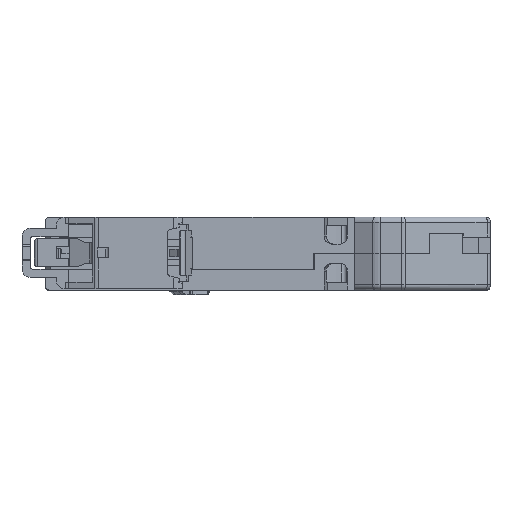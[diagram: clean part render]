
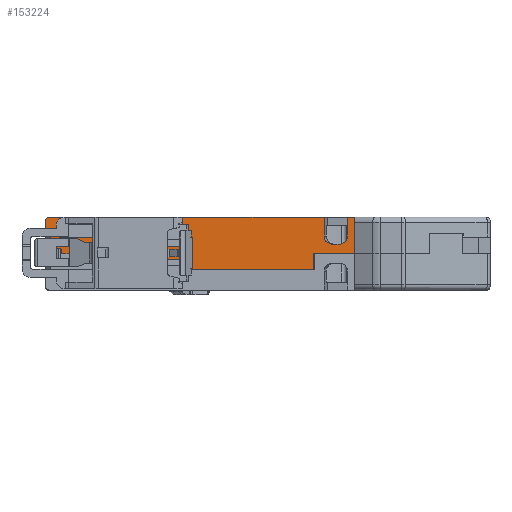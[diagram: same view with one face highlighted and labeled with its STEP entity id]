
A CAD part, top view. The second image highlights one B-rep face of the part: STEP entity #153224.
In plain terms, the highlighted planar face has unit normal (0, 0, 1).
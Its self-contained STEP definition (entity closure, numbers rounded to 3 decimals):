
#135839=DIRECTION('',(-1.,0.,0.));
#135840=VECTOR('',#135839,9.);
#135841=CARTESIAN_POINT('',(12.,75.841,-5.5));
#135842=LINE('',#135841,#135840);
#136026=DIRECTION('',(1.,0.,0.));
#136027=VECTOR('',#136026,0.8);
#136028=CARTESIAN_POINT('',(0.,79.791,-5.5));
#136029=LINE('',#136028,#136027);
#136030=DIRECTION('',(0.,-1.,0.));
#136031=VECTOR('',#136030,2.1);
#136032=CARTESIAN_POINT('',(0.,81.891,-5.5));
#136033=LINE('',#136032,#136031);
#136034=CARTESIAN_POINT('',(0.7,81.891,-5.5));
#136035=DIRECTION('',(0.,0.,1.));
#136036=DIRECTION('',(0.,1.,0.));
#136037=AXIS2_PLACEMENT_3D('',#136034,#136035,#136036);
#136039=DIRECTION('',(-1.,0.,0.));
#136040=VECTOR('',#136039,50.7);
#136041=CARTESIAN_POINT('',(51.4,82.591,-5.5));
#136042=LINE('',#136041,#136040);
#136043=DIRECTION('',(0.,1.,0.));
#136044=VECTOR('',#136043,3.5);
#136045=CARTESIAN_POINT('',(51.4,79.091,-5.5));
#136046=LINE('',#136045,#136044);
#136047=DIRECTION('',(-1.,0.,0.));
#136048=VECTOR('',#136047,1.233);
#136049=CARTESIAN_POINT('',(54.166,77.591,-5.5));
#136050=LINE('',#136049,#136048);
#136051=DIRECTION('',(-1.,0.,0.));
#136052=VECTOR('',#136051,2.8);
#136053=CARTESIAN_POINT('',(58.5,82.591,-5.5));
#136054=LINE('',#136053,#136052);
#136055=DIRECTION('',(0.,1.,0.));
#136056=VECTOR('',#136055,3.);
#136057=CARTESIAN_POINT('',(49.5,72.841,-5.5));
#136058=LINE('',#136057,#136056);
#136059=DIRECTION('',(1.,0.,0.));
#136060=VECTOR('',#136059,35.);
#136061=CARTESIAN_POINT('',(14.5,72.841,-5.5));
#136062=LINE('',#136061,#136060);
#136063=DIRECTION('',(-1.,0.,0.));
#136064=VECTOR('',#136063,5.5);
#136065=CARTESIAN_POINT('',(20.,78.841,-5.5));
#136066=LINE('',#136065,#136064);
#136067=DIRECTION('',(0.707,0.707,0.));
#136068=VECTOR('',#136067,0.424);
#136069=CARTESIAN_POINT('',(2.5,79.741,-5.5));
#136070=LINE('',#136069,#136068);
#136071=DIRECTION('',(0.,1.,0.));
#136072=VECTOR('',#136071,0.9);
#136073=CARTESIAN_POINT('',(2.5,78.841,-5.5));
#136074=LINE('',#136073,#136072);
#136075=DIRECTION('',(-1.,0.,0.));
#136076=VECTOR('',#136075,9.5);
#136077=CARTESIAN_POINT('',(12.,78.841,-5.5));
#136078=LINE('',#136077,#136076);
#136079=DIRECTION('',(0.206,-0.979,0.));
#136080=VECTOR('',#136079,0.971);
#136081=CARTESIAN_POINT('',(2.8,76.791,-5.5));
#136082=LINE('',#136081,#136080);
#136087=DIRECTION('',(0.,1.,0.));
#136088=VECTOR('',#136087,3.);
#136089=CARTESIAN_POINT('',(0.8,76.791,-5.5));
#136090=LINE('',#136089,#136088);
#136588=DIRECTION('',(0.,1.,0.));
#136589=VECTOR('',#136588,3.5);
#136590=CARTESIAN_POINT('',(55.7,79.091,-5.5));
#136591=LINE('',#136590,#136589);
#136640=DIRECTION('',(0.,-1.,0.));
#136641=VECTOR('',#136640,6.75);
#136642=CARTESIAN_POINT('',(58.5,82.591,-5.5));
#136643=LINE('',#136642,#136641);
#137154=CARTESIAN_POINT('',(54.166,77.591,-5.5));
#137155=CARTESIAN_POINT('',(54.419,77.591,-5.5));
#137156=CARTESIAN_POINT('',(54.818,77.698,-5.5));
#137157=CARTESIAN_POINT('',(55.27,78.005,-5.5));
#137158=CARTESIAN_POINT('',(55.587,78.446,-5.5));
#137159=CARTESIAN_POINT('',(55.7,78.839,-5.5));
#137160=CARTESIAN_POINT('',(55.7,79.091,-5.5));
#137266=DIRECTION('',(0.,1.,0.));
#137267=VECTOR('',#137266,1.2);
#137268=CARTESIAN_POINT('',(20.,78.841,-5.5));
#137269=LINE('',#137268,#137267);
#137286=DIRECTION('',(-1.,0.,0.));
#137287=VECTOR('',#137286,17.2);
#137288=CARTESIAN_POINT('',(20.,80.041,-5.5));
#137289=LINE('',#137288,#137287);
#144017=DIRECTION('',(0.,-1.,0.));
#144018=VECTOR('',#144017,3.);
#144019=CARTESIAN_POINT('',(12.,78.841,-5.5));
#144020=LINE('',#144019,#144018);
#144061=DIRECTION('',(0.,1.,0.));
#144062=VECTOR('',#144061,6.);
#144063=CARTESIAN_POINT('',(14.5,72.841,-5.5));
#144064=LINE('',#144063,#144062);
#144184=DIRECTION('',(-1.,0.,0.));
#144185=VECTOR('',#144184,9.);
#144186=CARTESIAN_POINT('',(58.5,75.841,-5.5));
#144187=LINE('',#144186,#144185);
#144258=CARTESIAN_POINT('',(51.4,79.091,-5.5));
#144259=CARTESIAN_POINT('',(51.4,78.839,-5.5));
#144260=CARTESIAN_POINT('',(51.513,78.446,-5.5));
#144261=CARTESIAN_POINT('',(51.83,78.005,-5.5));
#144262=CARTESIAN_POINT('',(52.282,77.698,-5.5));
#144263=CARTESIAN_POINT('',(52.681,77.591,-5.5));
#144264=CARTESIAN_POINT('',(52.934,77.591,-5.5));
#144282=DIRECTION('',(-1.,0.,0.));
#144283=VECTOR('',#144282,2.);
#144284=CARTESIAN_POINT('',(2.8,76.791,-5.5));
#144285=LINE('',#144284,#144283);
#149081=CARTESIAN_POINT('',(0.,79.791,-5.5));
#149082=CARTESIAN_POINT('',(0.8,79.791,-5.5));
#149083=VERTEX_POINT('',#149081);
#149084=VERTEX_POINT('',#149082);
#149085=CARTESIAN_POINT('',(0.8,76.791,-5.5));
#149086=VERTEX_POINT('',#149085);
#149087=CARTESIAN_POINT('',(2.8,76.791,-5.5));
#149088=VERTEX_POINT('',#149087);
#149089=CARTESIAN_POINT('',(3.,75.841,-5.5));
#149090=VERTEX_POINT('',#149089);
#149091=CARTESIAN_POINT('',(12.,75.841,-5.5));
#149092=VERTEX_POINT('',#149091);
#149093=CARTESIAN_POINT('',(12.,78.841,-5.5));
#149094=VERTEX_POINT('',#149093);
#149095=CARTESIAN_POINT('',(2.5,78.841,-5.5));
#149096=VERTEX_POINT('',#149095);
#149097=CARTESIAN_POINT('',(2.5,79.741,-5.5));
#149098=VERTEX_POINT('',#149097);
#149099=CARTESIAN_POINT('',(2.8,80.041,-5.5));
#149100=VERTEX_POINT('',#149099);
#149101=CARTESIAN_POINT('',(20.,80.041,-5.5));
#149102=VERTEX_POINT('',#149101);
#149103=CARTESIAN_POINT('',(20.,78.841,-5.5));
#149104=VERTEX_POINT('',#149103);
#149105=CARTESIAN_POINT('',(14.5,78.841,-5.5));
#149106=VERTEX_POINT('',#149105);
#149107=CARTESIAN_POINT('',(14.5,72.841,-5.5));
#149108=VERTEX_POINT('',#149107);
#149109=CARTESIAN_POINT('',(49.5,72.841,-5.5));
#149110=VERTEX_POINT('',#149109);
#149111=CARTESIAN_POINT('',(49.5,75.841,-5.5));
#149112=VERTEX_POINT('',#149111);
#149113=CARTESIAN_POINT('',(58.5,75.841,-5.5));
#149114=VERTEX_POINT('',#149113);
#149115=CARTESIAN_POINT('',(58.5,82.591,-5.5));
#149116=VERTEX_POINT('',#149115);
#149117=CARTESIAN_POINT('',(55.7,82.591,-5.5));
#149118=VERTEX_POINT('',#149117);
#149119=CARTESIAN_POINT('',(55.7,79.091,-5.5));
#149120=VERTEX_POINT('',#149119);
#149121=VERTEX_POINT('',#137154);
#149122=CARTESIAN_POINT('',(52.934,77.591,-5.5));
#149123=VERTEX_POINT('',#149122);
#149124=VERTEX_POINT('',#144258);
#149125=CARTESIAN_POINT('',(51.4,82.591,-5.5));
#149126=VERTEX_POINT('',#149125);
#149127=CARTESIAN_POINT('',(0.7,82.591,-5.5));
#149128=VERTEX_POINT('',#149127);
#149129=CARTESIAN_POINT('',(0.,81.891,-5.5));
#149130=VERTEX_POINT('',#149129);
#153166=CARTESIAN_POINT('',(0.,75.841,-5.5));
#153167=DIRECTION('',(0.,0.,1.));
#153168=DIRECTION('',(1.,0.,0.));
#153169=AXIS2_PLACEMENT_3D('',#153166,#153167,#153168);
#153170=PLANE('',#153169);
#153172=ORIENTED_EDGE('',*,*,#153171,.F.);
#153174=ORIENTED_EDGE('',*,*,#153173,.F.);
#153176=ORIENTED_EDGE('',*,*,#153175,.F.);
#153178=ORIENTED_EDGE('',*,*,#153177,.F.);
#153180=ORIENTED_EDGE('',*,*,#153179,.F.);
#153182=ORIENTED_EDGE('',*,*,#153181,.T.);
#153184=ORIENTED_EDGE('',*,*,#153183,.F.);
#153186=ORIENTED_EDGE('',*,*,#153185,.T.);
#153188=ORIENTED_EDGE('',*,*,#153187,.T.);
#153190=ORIENTED_EDGE('',*,*,#153189,.F.);
#153192=ORIENTED_EDGE('',*,*,#153191,.T.);
#153194=ORIENTED_EDGE('',*,*,#153193,.T.);
#153196=ORIENTED_EDGE('',*,*,#153195,.F.);
#153198=ORIENTED_EDGE('',*,*,#153197,.F.);
#153200=ORIENTED_EDGE('',*,*,#153199,.T.);
#153202=ORIENTED_EDGE('',*,*,#153201,.F.);
#153204=ORIENTED_EDGE('',*,*,#153203,.T.);
#153206=ORIENTED_EDGE('',*,*,#153205,.T.);
#153208=ORIENTED_EDGE('',*,*,#153207,.F.);
#153210=ORIENTED_EDGE('',*,*,#153209,.F.);
#153212=ORIENTED_EDGE('',*,*,#153211,.F.);
#153214=ORIENTED_EDGE('',*,*,#153213,.T.);
#153215=ORIENTED_EDGE('',*,*,#152854,.T.);
#153217=ORIENTED_EDGE('',*,*,#153216,.F.);
#153219=ORIENTED_EDGE('',*,*,#153218,.T.);
#153221=ORIENTED_EDGE('',*,*,#153220,.T.);
#153222=EDGE_LOOP('',(#153172,#153174,#153176,#153178,#153180,#153182,#153184,
#153186,#153188,#153190,#153192,#153194,#153196,#153198,#153200,#153202,#153204,
#153206,#153208,#153210,#153212,#153214,#153215,#153217,#153219,#153221));
#153223=FACE_OUTER_BOUND('',#153222,.F.);
#153224=ADVANCED_FACE('',(#153223),#153170,.T.);
#136038=CIRCLE('',#136037,0.7);
#137161=B_SPLINE_CURVE_WITH_KNOTS('',3,(#137154,#137155,#137156,#137157,#137158,
#137159,#137160),.UNSPECIFIED.,.F.,.F.,(4,1,1,1,4),(0.,0.25,0.5,0.75,
1.),.UNSPECIFIED.);
#144265=B_SPLINE_CURVE_WITH_KNOTS('',3,(#144258,#144259,#144260,#144261,#144262,
#144263,#144264),.UNSPECIFIED.,.F.,.F.,(4,1,1,1,4),(0.,0.25,0.5,0.75,
1.),.UNSPECIFIED.);
#152854=EDGE_CURVE('',#149092,#149090,#135842,.T.);
#153171=EDGE_CURVE('',#149083,#149084,#136029,.T.);
#153173=EDGE_CURVE('',#149130,#149083,#136033,.T.);
#153175=EDGE_CURVE('',#149128,#149130,#136038,.T.);
#153177=EDGE_CURVE('',#149126,#149128,#136042,.T.);
#153179=EDGE_CURVE('',#149124,#149126,#136046,.T.);
#153181=EDGE_CURVE('',#149124,#149123,#144265,.T.);
#153183=EDGE_CURVE('',#149121,#149123,#136050,.T.);
#153185=EDGE_CURVE('',#149121,#149120,#137161,.T.);
#153187=EDGE_CURVE('',#149120,#149118,#136591,.T.);
#153189=EDGE_CURVE('',#149116,#149118,#136054,.T.);
#153191=EDGE_CURVE('',#149116,#149114,#136643,.T.);
#153193=EDGE_CURVE('',#149114,#149112,#144187,.T.);
#153195=EDGE_CURVE('',#149110,#149112,#136058,.T.);
#153197=EDGE_CURVE('',#149108,#149110,#136062,.T.);
#153199=EDGE_CURVE('',#149108,#149106,#144064,.T.);
#153201=EDGE_CURVE('',#149104,#149106,#136066,.T.);
#153203=EDGE_CURVE('',#149104,#149102,#137269,.T.);
#153205=EDGE_CURVE('',#149102,#149100,#137289,.T.);
#153207=EDGE_CURVE('',#149098,#149100,#136070,.T.);
#153209=EDGE_CURVE('',#149096,#149098,#136074,.T.);
#153211=EDGE_CURVE('',#149094,#149096,#136078,.T.);
#153213=EDGE_CURVE('',#149094,#149092,#144020,.T.);
#153216=EDGE_CURVE('',#149088,#149090,#136082,.T.);
#153218=EDGE_CURVE('',#149088,#149086,#144285,.T.);
#153220=EDGE_CURVE('',#149086,#149084,#136090,.T.);
